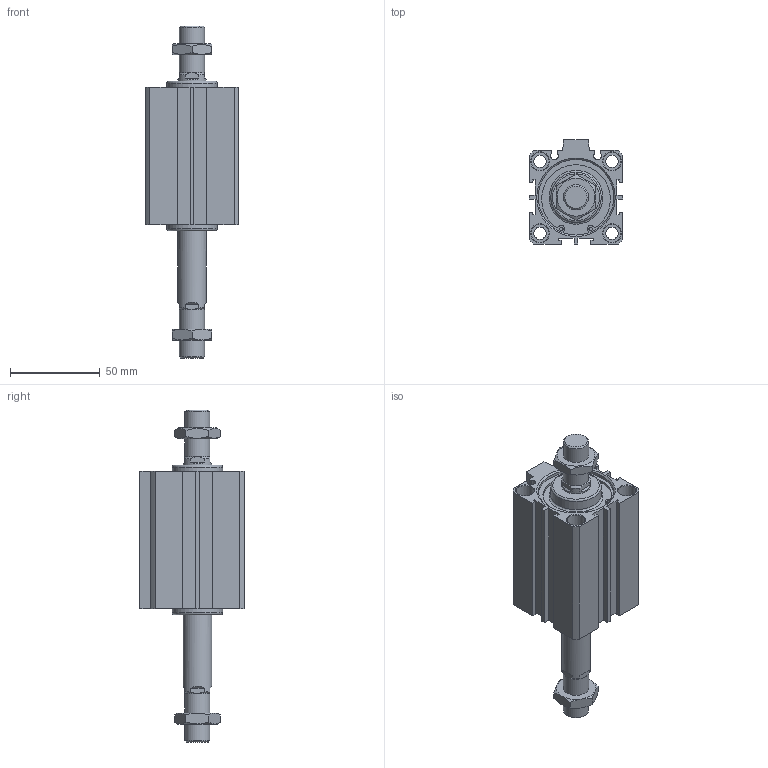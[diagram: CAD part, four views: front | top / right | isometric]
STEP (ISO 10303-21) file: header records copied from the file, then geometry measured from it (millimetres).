
FILE_DESCRIPTION((''),'2;1');
FILE_NAME('I:\3D電子目錄\氣缸\JDD\JDD-BS\JDD40-BS\JDD40x40-BS.stp','2007-02-27T14:38:04',('662F206'),(''),'Autodesk Inventor 10','Autodesk Inventor 10','');
FILE_SCHEMA(('AUTOMOTIVE_DESIGN { 1 0 10303 214 1 1 1 1 }'));
Length unit declared in the file: millimetre
Products named in the file (3): JDD40-BS; R 形環 42
Assembly tree (3 placements, depth 2):
  JDD40-BS
    JDD40-BS
    R 形環 42  x2
Bounding box: 52 x 58 x 184.5 mm (x, y, z)
Volume: 202059.7 mm3; surface area: 46046.9 mm2
Topology: 3 solids, 3 shells, 206 faces, 486 edges, 312 vertices
Faces by surface type: plane 114, cylinder 50, cone 38, bspline 2, torus 2
Full cylindrical faces by diameter (mm): 1.9 x4, 2.2 x2, 6.8 x4, 10 x8, 14 x4, 16 x2, 28 x2, 42 x4, 44.5 x2
Entity records: 5343 total; most frequent: CARTESIAN_POINT 1072, DIRECTION 880, ORIENTED_EDGE 792, EDGE_CURVE 396, AXIS2_PLACEMENT_3D 338, VERTEX_POINT 284, EDGE_LOOP 284, VECTOR 204
